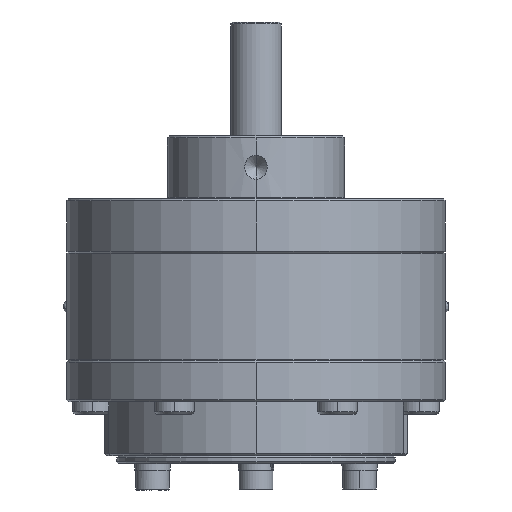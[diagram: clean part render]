
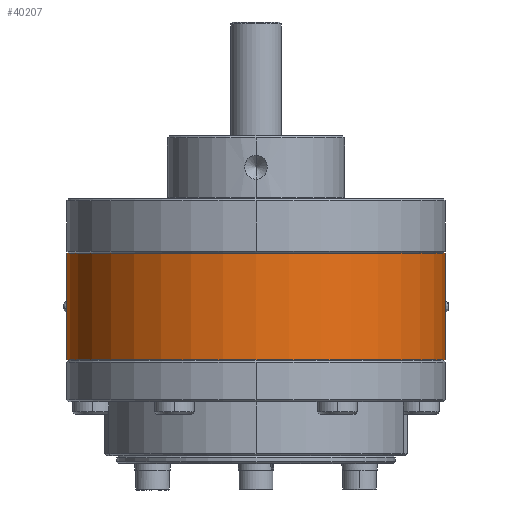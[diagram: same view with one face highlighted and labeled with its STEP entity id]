
A CAD part, front view. The second image highlights one B-rep face of the part: STEP entity #40207.
In plain terms, the highlighted cylindrical face has radius 47.5 mm (diameter 95 mm), a partial arc.
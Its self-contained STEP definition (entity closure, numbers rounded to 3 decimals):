
#1395 = CARTESIAN_POINT ( 'NONE',  ( 47.5, 0., 11.25 ) ) ;
#2027 = ORIENTED_EDGE ( 'NONE', *, *, #30825, .T. ) ;
#2165 = CARTESIAN_POINT ( 'NONE',  ( 0., 0., 40.629 ) ) ;
#2976 = CYLINDRICAL_SURFACE ( 'NONE', #11004, 47.5 ) ;
#3988 = DIRECTION ( 'NONE',  ( 0., 0., 1. ) ) ;
#4628 = VECTOR ( 'NONE', #3988, 1000. ) ;
#5189 = VERTEX_POINT ( 'NONE', #20351 ) ;
#5287 = ORIENTED_EDGE ( 'NONE', *, *, #11434, .F. ) ;
#5562 = VECTOR ( 'NONE', #12776, 1000. ) ;
#6144 = EDGE_CURVE ( 'NONE', #56218, #44945, #27118, .T. ) ;
#7494 = CARTESIAN_POINT ( 'NONE',  ( 0., 0., 13.375 ) ) ;
#7774 = VECTOR ( 'NONE', #29348, 1000. ) ;
#10971 = DIRECTION ( 'NONE',  ( 1., 0., 0. ) ) ;
#11004 = AXIS2_PLACEMENT_3D ( 'NONE', #2165, #33406, #10971 ) ;
#11093 = VERTEX_POINT ( 'NONE', #1395 ) ;
#11434 = EDGE_CURVE ( 'NONE', #46516, #44945, #56139, .T. ) ;
#12195 = EDGE_LOOP ( 'NONE', ( #5287, #24322, #19794, #19090, #2027, #38865, #29057, #51218 ) ) ;
#12776 = DIRECTION ( 'NONE',  ( 0., 0., 1. ) ) ;
#13067 = DIRECTION ( 'NONE',  ( 0., 0., 1. ) ) ;
#13757 = EDGE_CURVE ( 'NONE', #54621, #11093, #48490, .T. ) ;
#14116 = DIRECTION ( 'NONE',  ( 0., 0., 1. ) ) ;
#14195 = VERTEX_POINT ( 'NONE', #37224 ) ;
#14510 = CIRCLE ( 'NONE', #52030, 47.5 ) ;
#15921 = DIRECTION ( 'NONE',  ( 0., 0., 1. ) ) ;
#18581 = LINE ( 'NONE', #35223, #5562 ) ;
#18667 = CARTESIAN_POINT ( 'NONE',  ( -47.5, 0., -13.375 ) ) ;
#18700 = LINE ( 'NONE', #38177, #7774 ) ;
#19090 = ORIENTED_EDGE ( 'NONE', *, *, #13757, .T. ) ;
#19104 = DIRECTION ( 'NONE',  ( 0., 0., -1. ) ) ;
#19794 = ORIENTED_EDGE ( 'NONE', *, *, #23824, .T. ) ;
#20351 = CARTESIAN_POINT ( 'NONE',  ( -47.5, 0., 13.375 ) ) ;
#20793 = VERTEX_POINT ( 'NONE', #36384 ) ;
#23498 = CARTESIAN_POINT ( 'NONE',  ( -47.5, 0., 40.629 ) ) ;
#23824 = EDGE_CURVE ( 'NONE', #14195, #54621, #54926, .T. ) ;
#23891 = VECTOR ( 'NONE', #13067, 1000. ) ;
#24161 = CARTESIAN_POINT ( 'NONE',  ( 47.5, 0., -11.25 ) ) ;
#24322 = ORIENTED_EDGE ( 'NONE', *, *, #51720, .T. ) ;
#24355 = EDGE_CURVE ( 'NONE', #20793, #5189, #43121, .T. ) ;
#25370 = AXIS2_PLACEMENT_3D ( 'NONE', #7494, #52335, #56540 ) ;
#25873 = CARTESIAN_POINT ( 'NONE',  ( -47.5, 0., -11.25 ) ) ;
#27118 = LINE ( 'NONE', #23498, #49756 ) ;
#27141 = CARTESIAN_POINT ( 'NONE',  ( 47.5, 0., 40.629 ) ) ;
#28811 = DIRECTION ( 'NONE',  ( 1., 0., 0. ) ) ;
#29057 = ORIENTED_EDGE ( 'NONE', *, *, #31544, .F. ) ;
#29348 = DIRECTION ( 'NONE',  ( 0., 0., 1. ) ) ;
#29676 = FACE_OUTER_BOUND ( 'NONE', #12195, .T. ) ;
#30825 = EDGE_CURVE ( 'NONE', #11093, #20793, #18700, .T. ) ;
#31544 = EDGE_CURVE ( 'NONE', #56218, #5189, #18581, .T. ) ;
#33406 = DIRECTION ( 'NONE',  ( 0., 0., 1. ) ) ;
#35223 = CARTESIAN_POINT ( 'NONE',  ( -47.5, 0., 40.629 ) ) ;
#36384 = CARTESIAN_POINT ( 'NONE',  ( 47.5, 0., 13.375 ) ) ;
#37224 = CARTESIAN_POINT ( 'NONE',  ( 47.5, 0., -13.375 ) ) ;
#38177 = CARTESIAN_POINT ( 'NONE',  ( 47.5, 0., 40.629 ) ) ;
#38865 = ORIENTED_EDGE ( 'NONE', *, *, #24355, .T. ) ;
#40207 = ADVANCED_FACE ( 'NONE', ( #29676 ), #2976, .T. ) ;
#43121 = CIRCLE ( 'NONE', #25370, 47.5 ) ;
#44945 = VERTEX_POINT ( 'NONE', #25873 ) ;
#45306 = VECTOR ( 'NONE', #14116, 1000. ) ;
#46011 = CARTESIAN_POINT ( 'NONE',  ( 0., 0., -13.375 ) ) ;
#46516 = VERTEX_POINT ( 'NONE', #18667 ) ;
#47936 = CARTESIAN_POINT ( 'NONE',  ( -47.5, 0., 40.629 ) ) ;
#48423 = CARTESIAN_POINT ( 'NONE',  ( 47.5, 0., 40.629 ) ) ;
#48490 = LINE ( 'NONE', #48423, #4628 ) ;
#49080 = CARTESIAN_POINT ( 'NONE',  ( -47.5, 0., 11.25 ) ) ;
#49756 = VECTOR ( 'NONE', #19104, 1000. ) ;
#51218 = ORIENTED_EDGE ( 'NONE', *, *, #6144, .T. ) ;
#51720 = EDGE_CURVE ( 'NONE', #46516, #14195, #14510, .T. ) ;
#52030 = AXIS2_PLACEMENT_3D ( 'NONE', #46011, #15921, #28811 ) ;
#52335 = DIRECTION ( 'NONE',  ( 0., 0., -1. ) ) ;
#54621 = VERTEX_POINT ( 'NONE', #24161 ) ;
#54926 = LINE ( 'NONE', #27141, #45306 ) ;
#56139 = LINE ( 'NONE', #47936, #23891 ) ;
#56218 = VERTEX_POINT ( 'NONE', #49080 ) ;
#56540 = DIRECTION ( 'NONE',  ( 1., 0., 0. ) ) ;
